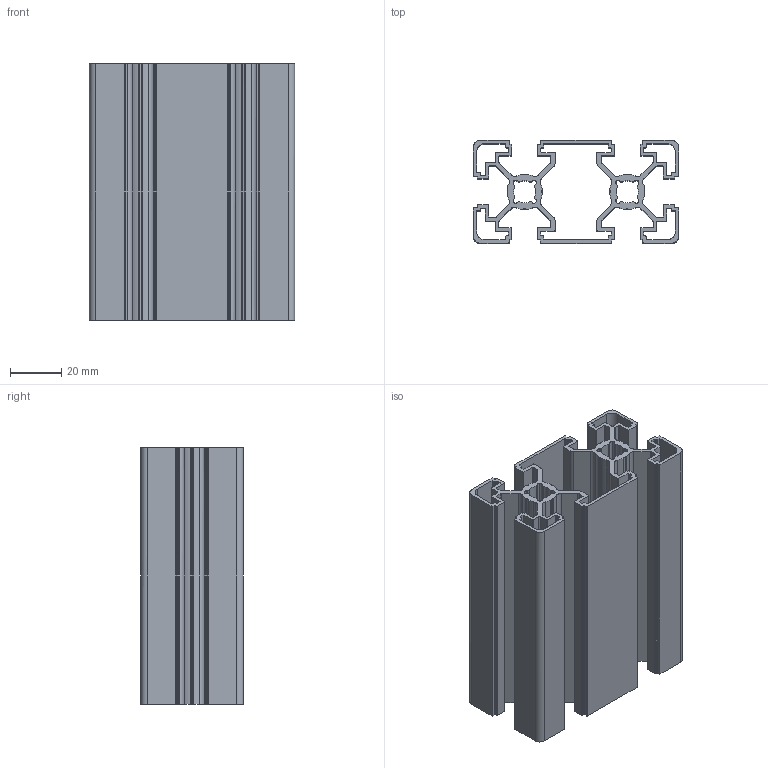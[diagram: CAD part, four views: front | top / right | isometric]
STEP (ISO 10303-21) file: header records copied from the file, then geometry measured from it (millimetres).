
FILE_DESCRIPTION (( 'STEP AP203' ), '1' );
FILE_NAME ('40x80 Light Sigma Profile.STEP', '2022-01-31T16:12:52', ( '' ), ( '' ), 'SwSTEP 2.0', 'SolidWorks 2018', '' );
FILE_SCHEMA (( 'CONFIG_CONTROL_DESIGN' ));
Length unit declared in the file: millimetre
Products named in the file (1): 40x80 Light Sigma Profile
Bounding box: 80 x 40 x 100 mm (x, y, z)
Volume: 72124.2 mm3; surface area: 91673.7 mm2
Topology: 1 solids, 1 shells, 446 faces, 1332 edges, 888 vertices
Faces by surface type: bspline 446
Entity records: 15436 total; most frequent: CARTESIAN_POINT 7865, ORIENTED_EDGE 2664, EDGE_CURVE 1332, B_SPLINE_CURVE_WITH_KNOTS 1055, VERTEX_POINT 888, EDGE_LOOP 460, ADVANCED_FACE 446, FACE_OUTER_BOUND 446
